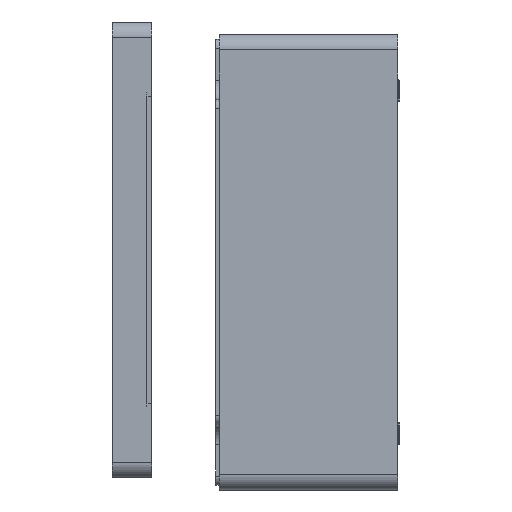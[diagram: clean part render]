
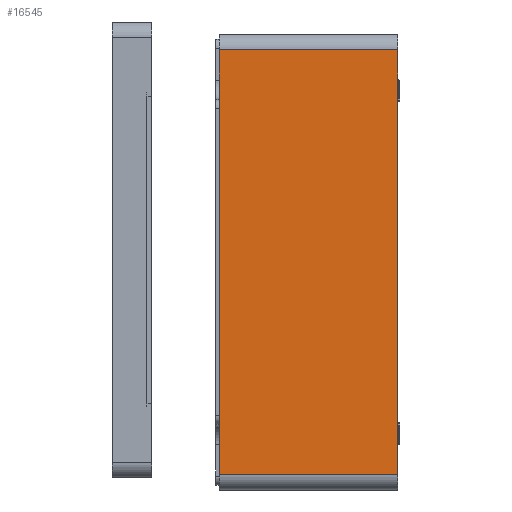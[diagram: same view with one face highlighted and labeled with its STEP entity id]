
A CAD part, left-side view. The second image highlights one B-rep face of the part: STEP entity #16545.
In plain terms, the highlighted planar face has unit normal (-1, 0, 0).
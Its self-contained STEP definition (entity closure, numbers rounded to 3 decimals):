
#527 = VECTOR ( 'NONE', #2020, 1000. ) ;
#2020 = DIRECTION ( 'NONE',  ( 0., 0., 1. ) ) ;
#2516 = CARTESIAN_POINT ( 'NONE',  ( -140., 90., -107. ) ) ;
#3853 = CARTESIAN_POINT ( 'NONE',  ( -140., 0., -115. ) ) ;
#4292 = ORIENTED_EDGE ( 'NONE', *, *, #15957, .T. ) ;
#5019 = CARTESIAN_POINT ( 'NONE',  ( -140., 90., -115. ) ) ;
#5303 = CARTESIAN_POINT ( 'NONE',  ( -140., 90., -115. ) ) ;
#6055 = EDGE_CURVE ( 'NONE', #24479, #14963, #27775, .T. ) ;
#6466 = CARTESIAN_POINT ( 'NONE',  ( -140., 0., -107. ) ) ;
#8526 = FACE_OUTER_BOUND ( 'NONE', #16832, .T. ) ;
#9016 = CARTESIAN_POINT ( 'NONE',  ( -140., 90., 107. ) ) ;
#9328 = EDGE_CURVE ( 'NONE', #24600, #24479, #18607, .T. ) ;
#10426 = CARTESIAN_POINT ( 'NONE',  ( -140., 90., -107. ) ) ;
#10908 = CARTESIAN_POINT ( 'NONE',  ( -140., 90., 107. ) ) ;
#11793 = VECTOR ( 'NONE', #22456, 1000. ) ;
#13655 = CARTESIAN_POINT ( 'NONE',  ( -140., 0., 107. ) ) ;
#14963 = VERTEX_POINT ( 'NONE', #13655 ) ;
#15628 = DIRECTION ( 'NONE',  ( 0., 1., 0. ) ) ;
#15957 = EDGE_CURVE ( 'NONE', #14963, #17198, #26319, .T. ) ;
#16264 = LINE ( 'NONE', #5303, #11793 ) ;
#16545 = ADVANCED_FACE ( 'NONE', ( #8526 ), #21763, .F. ) ;
#16832 = EDGE_LOOP ( 'NONE', ( #20221, #4292, #24398, #27170 ) ) ;
#17033 = VECTOR ( 'NONE', #15628, 1000. ) ;
#17198 = VERTEX_POINT ( 'NONE', #10908 ) ;
#17405 = DIRECTION ( 'NONE',  ( 0., 0., -1. ) ) ;
#18607 = LINE ( 'NONE', #10426, #25959 ) ;
#19028 = DIRECTION ( 'NONE',  ( 0., -1., 0. ) ) ;
#20117 = EDGE_CURVE ( 'NONE', #24600, #17198, #16264, .T. ) ;
#20221 = ORIENTED_EDGE ( 'NONE', *, *, #6055, .T. ) ;
#21531 = AXIS2_PLACEMENT_3D ( 'NONE', #5019, #26102, #17405 ) ;
#21763 = PLANE ( 'NONE',  #21531 ) ;
#22456 = DIRECTION ( 'NONE',  ( 0., 0., 1. ) ) ;
#24398 = ORIENTED_EDGE ( 'NONE', *, *, #20117, .F. ) ;
#24479 = VERTEX_POINT ( 'NONE', #6466 ) ;
#24600 = VERTEX_POINT ( 'NONE', #2516 ) ;
#25959 = VECTOR ( 'NONE', #19028, 1000. ) ;
#26102 = DIRECTION ( 'NONE',  ( 1., 0., 0. ) ) ;
#26319 = LINE ( 'NONE', #9016, #17033 ) ;
#27170 = ORIENTED_EDGE ( 'NONE', *, *, #9328, .T. ) ;
#27775 = LINE ( 'NONE', #3853, #527 ) ;
